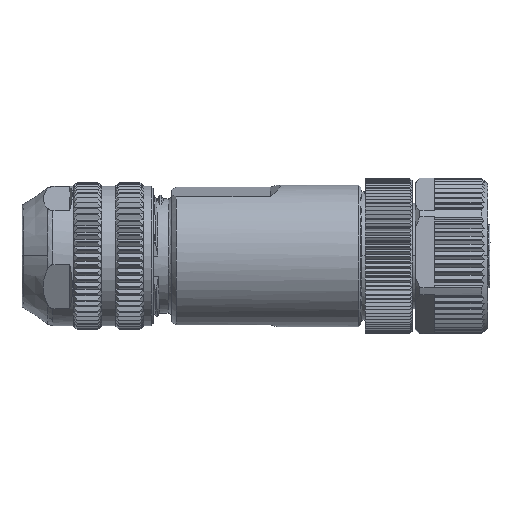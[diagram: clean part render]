
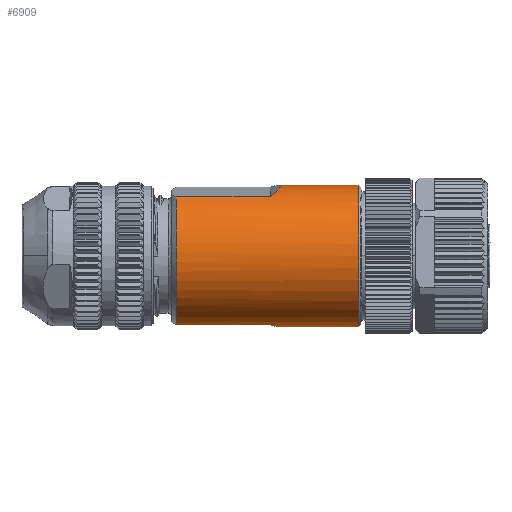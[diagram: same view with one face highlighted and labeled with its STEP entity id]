
A CAD part, top view. The second image highlights one B-rep face of the part: STEP entity #6909.
In plain terms, the highlighted cylindrical face has radius 9.06 mm (diameter 18.12 mm), a partial arc.
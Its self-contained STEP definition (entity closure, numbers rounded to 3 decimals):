
#474 = CARTESIAN_POINT ( 'NONE',  ( -17.7, -3.356, 8.427 ) ) ;
#665 = CARTESIAN_POINT ( 'NONE',  ( -17.7, 5.105, 7.538 ) ) ;
#1084 = CARTESIAN_POINT ( 'NONE',  ( -17.7, -4.543, 7.851 ) ) ;
#2641 = CARTESIAN_POINT ( 'NONE',  ( -17.7, 7.556, 5. ) ) ;
#2680 = VECTOR ( 'NONE', #42017, 1000. ) ;
#2810 = EDGE_CURVE ( 'NONE', #20187, #22766, #47312, .T. ) ;
#3784 =( BOUNDED_CURVE ( )  B_SPLINE_CURVE ( 3, ( #37035, #22671, #17892, #13336 ),
 .UNSPECIFIED., .F., .F. ) 
 B_SPLINE_CURVE_WITH_KNOTS ( ( 4, 4 ),
 ( 2.958, 3.543 ),
 .UNSPECIFIED. ) 
 CURVE ( )  GEOMETRIC_REPRESENTATION_ITEM ( )  RATIONAL_B_SPLINE_CURVE ( ( 1., 0.972, 0.972, 1. ) ) 
 REPRESENTATION_ITEM ( '' )  );
#4435 = EDGE_CURVE ( 'NONE', #59070, #10501, #32092, .T. ) ;
#4851 = VERTEX_POINT ( 'NONE', #25491 ) ;
#5210 = CARTESIAN_POINT ( 'NONE',  ( -17.7, -5.458, 7.234 ) ) ;
#5415 = CARTESIAN_POINT ( 'NONE',  ( -17.7, 2.707, 8.657 ) ) ;
#5619 = CARTESIAN_POINT ( 'NONE',  ( -17.7, -2.514, 8.716 ) ) ;
#5663 = VERTEX_POINT ( 'NONE', #49551 ) ;
#6909 = ADVANCED_FACE ( 'NONE', ( #50691 ), #60989, .T. ) ;
#7880 = ORIENTED_EDGE ( 'NONE', *, *, #28072, .T. ) ;
#8853 = CARTESIAN_POINT ( 'NONE',  ( -4.88, -9.06, 0.66 ) ) ;
#8875 = CARTESIAN_POINT ( 'NONE',  ( -17.1, 9.06, 0. ) ) ;
#9714 = CARTESIAN_POINT ( 'NONE',  ( -17.7, -6.14, 6.666 ) ) ;
#9916 = CARTESIAN_POINT ( 'NONE',  ( -17.7, -7.692, 4.807 ) ) ;
#10328 = CARTESIAN_POINT ( 'NONE',  ( -17.7, -8.652, 2.831 ) ) ;
#10335 = VERTEX_POINT ( 'NONE', #2641 ) ;
#10501 = VERTEX_POINT ( 'NONE', #31427 ) ;
#11225 = CARTESIAN_POINT ( 'NONE',  ( 5.7, 9.06, 0. ) ) ;
#11952 = ORIENTED_EDGE ( 'NONE', *, *, #60527, .T. ) ;
#12444 = CARTESIAN_POINT ( 'NONE',  ( 5.7, 0., 0. ) ) ;
#12550 = ORIENTED_EDGE ( 'NONE', *, *, #21299, .T. ) ;
#12963 = CARTESIAN_POINT ( 'NONE',  ( -5.21, -8.988, 1.316 ) ) ;
#13336 = CARTESIAN_POINT ( 'NONE',  ( -5.656, 7.556, 5. ) ) ;
#14233 = CARTESIAN_POINT ( 'NONE',  ( -17.7, 3.131, 8.513 ) ) ;
#14642 = CARTESIAN_POINT ( 'NONE',  ( -17.7, -8.339, 3.651 ) ) ;
#15070 = CARTESIAN_POINT ( 'NONE',  ( -17.7, -8.845, 1.961 ) ) ;
#15973 = DIRECTION ( 'NONE',  ( 1., 0., 0. ) ) ;
#17892 = CARTESIAN_POINT ( 'NONE',  ( -4.444, 8.544, 3.506 ) ) ;
#19189 = CARTESIAN_POINT ( 'NONE',  ( -17.7, 6.475, 6.399 ) ) ;
#20187 = VERTEX_POINT ( 'NONE', #60713 ) ;
#20962 = LINE ( 'NONE', #8875, #44477 ) ;
#21299 = EDGE_CURVE ( 'NONE', #52302, #59070, #54463, .T. ) ;
#21764 = DIRECTION ( 'NONE',  ( 0., -1., 0. ) ) ;
#21788 = AXIS2_PLACEMENT_3D ( 'NONE', #12444, #54840, #21764 ) ;
#22671 = CARTESIAN_POINT ( 'NONE',  ( -4.107, 9.06, 1.791 ) ) ;
#22766 = VERTEX_POINT ( 'NONE', #11225 ) ;
#23733 = CARTESIAN_POINT ( 'NONE',  ( -17.7, 7.064, 5.743 ) ) ;
#23942 = CARTESIAN_POINT ( 'NONE',  ( -17.7, -2.086, 8.828 ) ) ;
#24360 = EDGE_CURVE ( 'NONE', #5663, #10335, #55688, .T. ) ;
#24539 = CARTESIAN_POINT ( 'NONE',  ( -17.7, -7.445, 5.181 ) ) ;
#25491 = CARTESIAN_POINT ( 'NONE',  ( -4.672, 9.06, 0. ) ) ;
#27825 = CARTESIAN_POINT ( 'NONE',  ( -17.1, -9.06, 0. ) ) ;
#28072 = EDGE_CURVE ( 'NONE', #22766, #4851, #20962, .T. ) ;
#28272 = AXIS2_PLACEMENT_3D ( 'NONE', #48795, #52935, #30103 ) ;
#28448 = CARTESIAN_POINT ( 'NONE',  ( -17.7, -4.918, 7.622 ) ) ;
#29034 = CARTESIAN_POINT ( 'NONE',  ( -18.3, 7.556, 5. ) ) ;
#29270 = CARTESIAN_POINT ( 'NONE',  ( -17.7, 1.855, 8.879 ) ) ;
#30103 = DIRECTION ( 'NONE',  ( 0., -1., 0. ) ) ;
#31427 = CARTESIAN_POINT ( 'NONE',  ( -4.672, -9.06, 0. ) ) ;
#32092 =( BOUNDED_CURVE ( )  B_SPLINE_CURVE ( 3, ( #36641, #12963, #8853, #59860 ),
 .UNSPECIFIED., .F., .F. ) 
 B_SPLINE_CURVE_WITH_KNOTS ( ( 4, 4 ),
 ( 2.74, 2.958 ),
 .UNSPECIFIED. ) 
 CURVE ( )  GEOMETRIC_REPRESENTATION_ITEM ( )  RATIONAL_B_SPLINE_CURVE ( ( 1., 0.996, 0.996, 1. ) ) 
 REPRESENTATION_ITEM ( '' )  );
#33816 = CARTESIAN_POINT ( 'NONE',  ( -17.7, -1.222, 8.988 ) ) ;
#34014 = CARTESIAN_POINT ( 'NONE',  ( -17.7, 4.353, 7.995 ) ) ;
#36641 = CARTESIAN_POINT ( 'NONE',  ( -5.656, -8.845, 1.961 ) ) ;
#37035 = CARTESIAN_POINT ( 'NONE',  ( -4.672, 9.06, 0. ) ) ;
#37457 = DIRECTION ( 'NONE',  ( -1., 0., 0. ) ) ;
#37921 = CARTESIAN_POINT ( 'NONE',  ( -17.7, -5.635, 7.098 ) ) ;
#38118 = CARTESIAN_POINT ( 'NONE',  ( -17.7, -6.907, 5.88 ) ) ;
#38522 = CARTESIAN_POINT ( 'NONE',  ( -17.7, -6.614, 6.207 ) ) ;
#38731 = LINE ( 'NONE', #27825, #2680 ) ;
#41130 = ORIENTED_EDGE ( 'NONE', *, *, #2810, .T. ) ;
#41938 = VECTOR ( 'NONE', #15973, 1000. ) ;
#42017 = DIRECTION ( 'NONE',  ( -1., 0., 0. ) ) ;
#42662 = ORIENTED_EDGE ( 'NONE', *, *, #4435, .T. ) ;
#42820 = CARTESIAN_POINT ( 'NONE',  ( -5.656, -8.845, 1.961 ) ) ;
#42831 = CARTESIAN_POINT ( 'NONE',  ( -17.7, -0.785, 9.037 ) ) ;
#43044 = CARTESIAN_POINT ( 'NONE',  ( -17.7, 0.099, 9.07 ) ) ;
#43228 = DIRECTION ( 'NONE',  ( -1., 0., 0. ) ) ;
#43646 = ORIENTED_EDGE ( 'NONE', *, *, #52071, .T. ) ;
#44383 = CARTESIAN_POINT ( 'NONE',  ( -17.7, -8.845, 1.961 ) ) ;
#44477 = VECTOR ( 'NONE', #37457, 1000. ) ;
#47168 = CARTESIAN_POINT ( 'NONE',  ( -17.7, 0.547, 9.054 ) ) ;
#47222 = ORIENTED_EDGE ( 'NONE', *, *, #24360, .T. ) ;
#47312 = CIRCLE ( 'NONE', #21788, 9.06 ) ;
#48795 = CARTESIAN_POINT ( 'NONE',  ( -17.1, 0., 0. ) ) ;
#49361 = EDGE_CURVE ( 'NONE', #20187, #10501, #38731, .T. ) ;
#49551 = CARTESIAN_POINT ( 'NONE',  ( -5.656, 7.556, 5. ) ) ;
#50691 = FACE_OUTER_BOUND ( 'NONE', #51326, .T. ) ;
#51326 = EDGE_LOOP ( 'NONE', ( #41130, #7880, #43646, #47222, #11952, #12550, #42662, #55984 ) ) ;
#52071 = EDGE_CURVE ( 'NONE', #4851, #5663, #3784, .T. ) ;
#52107 = CARTESIAN_POINT ( 'NONE',  ( -17.7, 1.423, 8.958 ) ) ;
#52302 = VERTEX_POINT ( 'NONE', #44383 ) ;
#52729 = CARTESIAN_POINT ( 'NONE',  ( -17.7, -5.976, 6.814 ) ) ;
#52935 = DIRECTION ( 'NONE',  ( -1., 0., 0. ) ) ;
#54229 = VECTOR ( 'NONE', #43228, 1000. ) ;
#54463 = LINE ( 'NONE', #57940, #41938 ) ;
#54840 = DIRECTION ( 'NONE',  ( -1., 0., 0. ) ) ;
#55688 = LINE ( 'NONE', #29034, #54229 ) ;
#55984 = ORIENTED_EDGE ( 'NONE', *, *, #49361, .F. ) ;
#56616 = CARTESIAN_POINT ( 'NONE',  ( -17.7, -3.762, 8.254 ) ) ;
#57035 = CARTESIAN_POINT ( 'NONE',  ( -17.7, 7.556, 5. ) ) ;
#57940 = CARTESIAN_POINT ( 'NONE',  ( -5.656, -8.845, 1.961 ) ) ;
#59070 = VERTEX_POINT ( 'NONE', #42820 ) ;
#59298 = B_SPLINE_CURVE_WITH_KNOTS ( 'NONE', 3,
 ( #57035, #23733, #19189, #665, #34014, #14233, #5415, #29270, #52107, #47168, #43044, #42831, #33816, #23942, #5619, #474, #56616, #1084, #28448, #5210, #37921, #52729, #9714, #38522, #38118, #24539, #9916, #14642, #10328, #15070 ),
 .UNSPECIFIED., .F., .F.,
 ( 4, 2, 2, 2, 2, 2, 2, 2, 2, 2, 2, 2, 2, 2, 4 ),
 ( 0., 0.003, 0.005, 0.007, 0.008, 0.009, 0.011, 0.012, 0.013, 0.015, 0.015, 0.016, 0.017, 0.019, 0.021 ),
 .UNSPECIFIED. ) ;
#59860 = CARTESIAN_POINT ( 'NONE',  ( -4.672, -9.06, 0. ) ) ;
#60527 = EDGE_CURVE ( 'NONE', #10335, #52302, #59298, .T. ) ;
#60713 = CARTESIAN_POINT ( 'NONE',  ( 5.7, -9.06, 0. ) ) ;
#60989 = CYLINDRICAL_SURFACE ( 'NONE', #28272, 9.06 ) ;
